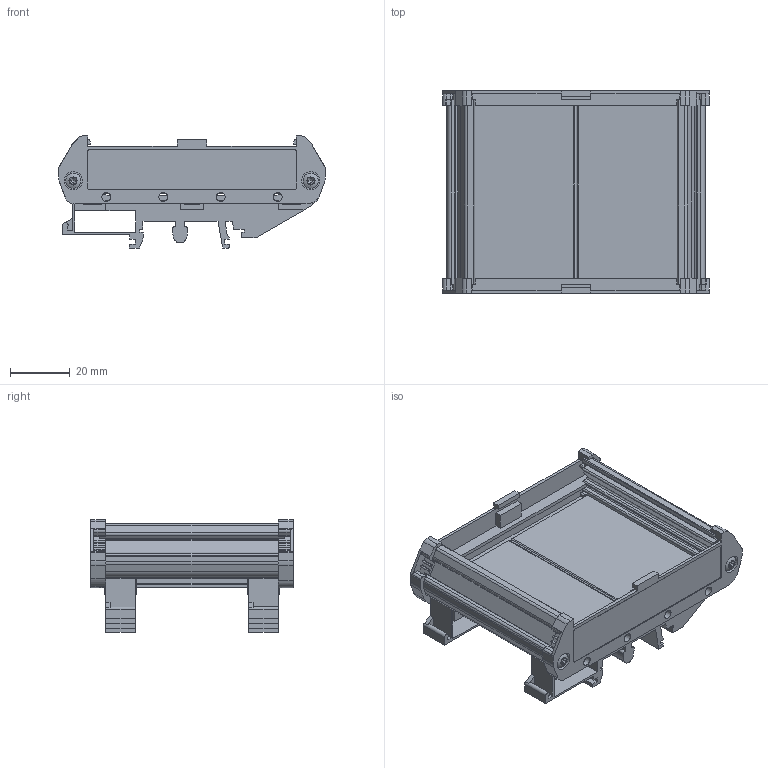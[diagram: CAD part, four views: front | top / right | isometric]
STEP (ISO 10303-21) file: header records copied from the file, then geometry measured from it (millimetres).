
FILE_DESCRIPTION(/* description */ (''),/* implementation_level */ '2;1');
FILE_NAME(/* name */ 'C:\Users\thijs\Desktop\Zilvertron\Phoenix\4000305\4000305.stp',/* time_stamp */ '2019-11-01T13:21:19+01:00',/* author */ ('thijs'),/* organization */ (''),/* preprocessor_version */ 'ST-DEVELOPER v18',/* originating_system */ 'Autodesk Inventor 2020',/* authorisation */ '');
FILE_SCHEMA (('AUTOMOTIVE_DESIGN { 1 0 10303 214 3 1 1 }'));
Length unit declared in the file: millimetre
Products named in the file (7): 4000305; pxc_2907583_00_UM-72-PROFIL_L=63; UM_72-PROFIL_H_L=62; pxc_2959337_01_UM-72-SE_3D; UM_72-SE_H.Select__00276902; Schr.Lins._3x14-Z_01151118; 39295
Assembly tree (9 placements, depth 3):
  4000305
    pxc_2907583_00_UM-72-PROFIL_L=63
      UM_72-PROFIL_H_L=62
    pxc_2959337_01_UM-72-SE_3D  x2
      UM_72-SE_H.Select__00276902
      Schr.Lins._3x14-Z_01151118
    39295  x2
Bounding box: 89.6 x 68 x 37.6 mm (x, y, z)
Volume: 41825.7 mm3; surface area: 42691 mm2
Topology: 9 solids, 9 shells, 1053 faces, 3131 edges, 2098 vertices
Faces by surface type: plane 672, cylinder 343, cone 20, bspline 10, sphere 4, torus 4
Full cylindrical faces by diameter (mm): 1.71 x36, 2.404 x4, 3 x10, 3.4 x4, 5.15 x4, 6 x4
Entity records: 20373 total; most frequent: CARTESIAN_POINT 5272, ORIENTED_EDGE 3200, DIRECTION 3086, EDGE_CURVE 1600, LINE 1128, VECTOR 1128, VERTEX_POINT 1072, AXIS2_PLACEMENT_3D 979
